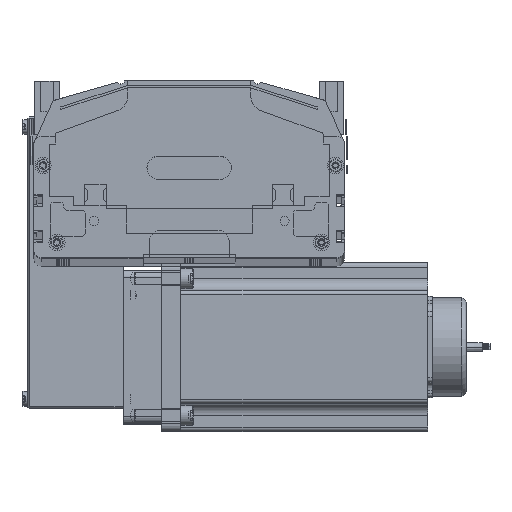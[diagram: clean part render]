
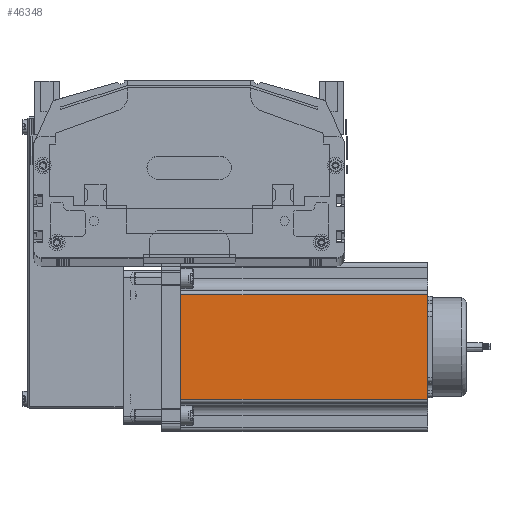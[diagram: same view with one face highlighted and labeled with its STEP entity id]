
A CAD part, top view. The second image highlights one B-rep face of the part: STEP entity #46348.
In plain terms, the highlighted planar face has unit normal (0, 0, 1) as drawn and (0, -1, 0) by its records, which use the part's own axes.
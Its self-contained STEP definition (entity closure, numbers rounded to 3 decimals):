
#3661 = DIRECTION ( 'NONE',  ( 1., 0., 0. ) ) ;
#3662 = VECTOR ( 'NONE', #3661, 1000. ) ;
#3663 = CARTESIAN_POINT ( 'NONE',  ( 0., 0., 160.5 ) ) ;
#3665 = LINE ( 'NONE', #3663, #3662 ) ;
#3702 = LINE ( 'NONE', #3801, #3785 ) ;
#3783 = DIRECTION ( 'NONE',  ( 0., 0., -1. ) ) ;
#3785 = VECTOR ( 'NONE', #3783, 1000. ) ;
#3801 = CARTESIAN_POINT ( 'NONE',  ( 21.048, 0., 160.5 ) ) ;
#3905 = CARTESIAN_POINT ( 'NONE',  ( 88.952, 0., 0. ) ) ;
#3916 = CARTESIAN_POINT ( 'NONE',  ( 88.952, 0., 160.5 ) ) ;
#3927 = CARTESIAN_POINT ( 'NONE',  ( 21.048, 0., 160.5 ) ) ;
#40743 = CARTESIAN_POINT ( 'NONE',  ( 21.048, 0., 0. ) ) ;
#41338 = DIRECTION ( 'NONE',  ( 1., 0., 0. ) ) ;
#41339 = VECTOR ( 'NONE', #41338, 1000. ) ;
#41340 = CARTESIAN_POINT ( 'NONE',  ( 0., 0., 0. ) ) ;
#41345 = LINE ( 'NONE', #41340, #41339 ) ;
#41478 = DIRECTION ( 'NONE',  ( 0., 0., 1. ) ) ;
#41497 = VECTOR ( 'NONE', #41478, 1000. ) ;
#41764 = AXIS2_PLACEMENT_3D ( 'NONE', #41790, #41789, #41829 ) ;
#41789 = DIRECTION ( 'NONE',  ( 0., 1., 0. ) ) ;
#41790 = CARTESIAN_POINT ( 'NONE',  ( 0., 0., 160.5 ) ) ;
#41791 = FACE_OUTER_BOUND ( 'NONE', #46385, .T. ) ;
#41795 = PLANE ( 'NONE',  #41764 ) ;
#41829 = DIRECTION ( 'NONE',  ( 0., 0., 1. ) ) ;
#41992 = CARTESIAN_POINT ( 'NONE',  ( 88.952, 0., 160.5 ) ) ;
#41993 = LINE ( 'NONE', #41992, #41497 ) ;
#45973 = VERTEX_POINT ( 'NONE', #40743 ) ;
#46163 = EDGE_CURVE ( 'NONE', #45973, #46604, #41345, .T. ) ;
#46348 = ADVANCED_FACE ( 'NONE', ( #41791 ), #41795, .F. ) ;
#46350 = ORIENTED_EDGE ( 'NONE', *, *, #46163, .T. ) ;
#46385 = EDGE_LOOP ( 'NONE', ( #46350, #46655, #46517, #46514 ) ) ;
#46514 = ORIENTED_EDGE ( 'NONE', *, *, #46569, .T. ) ;
#46517 = ORIENTED_EDGE ( 'NONE', *, *, #46549, .F. ) ;
#46543 = EDGE_CURVE ( 'NONE', #46604, #46602, #41993, .T. ) ;
#46549 = EDGE_CURVE ( 'NONE', #46629, #46602, #3665, .T. ) ;
#46569 = EDGE_CURVE ( 'NONE', #46629, #45973, #3702, .T. ) ;
#46602 = VERTEX_POINT ( 'NONE', #3916 ) ;
#46604 = VERTEX_POINT ( 'NONE', #3905 ) ;
#46629 = VERTEX_POINT ( 'NONE', #3927 ) ;
#46655 = ORIENTED_EDGE ( 'NONE', *, *, #46543, .T. ) ;
